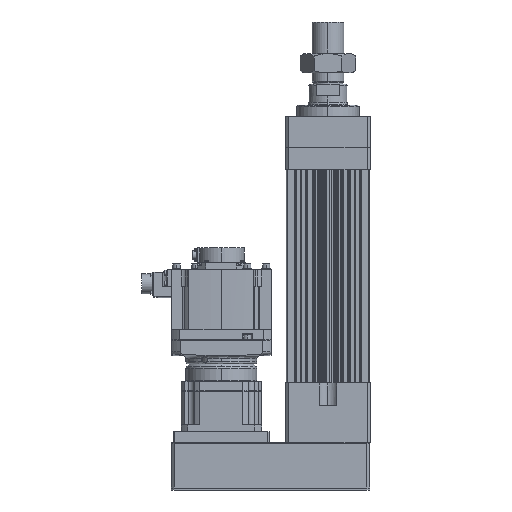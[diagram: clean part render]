
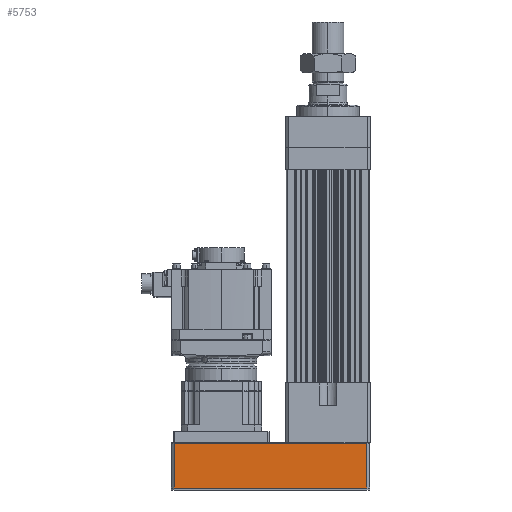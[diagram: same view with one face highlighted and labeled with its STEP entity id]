
A CAD part, left-side view. The second image highlights one B-rep face of the part: STEP entity #5753.
In plain terms, the highlighted planar face has unit normal (-1, 0, 0).
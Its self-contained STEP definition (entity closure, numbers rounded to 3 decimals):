
#1060 = CARTESIAN_POINT ( 'NONE',  ( -73.5, 271.5, -106.5 ) ) ;
#2267 = LINE ( 'NONE', #52639, #41137 ) ;
#3141 = VERTEX_POINT ( 'NONE', #20644 ) ;
#5753 = ADVANCED_FACE ( 'NONE', ( #41482 ), #39774, .F. ) ;
#5914 = EDGE_CURVE ( 'NONE', #8346, #50748, #14648, .T. ) ;
#8016 = DIRECTION ( 'NONE',  ( 0., 0., 1. ) ) ;
#8295 = EDGE_LOOP ( 'NONE', ( #27834, #16428, #14856, #49110 ) ) ;
#8346 = VERTEX_POINT ( 'NONE', #33720 ) ;
#10574 = DIRECTION ( 'NONE',  ( 0., 1., 0. ) ) ;
#11549 = CARTESIAN_POINT ( 'NONE',  ( -73.5, 271.5, -186. ) ) ;
#13460 = VECTOR ( 'NONE', #43443, 1000. ) ;
#14648 = LINE ( 'NONE', #11549, #47875 ) ;
#14856 = ORIENTED_EDGE ( 'NONE', *, *, #39870, .T. ) ;
#15452 = CARTESIAN_POINT ( 'NONE',  ( -73.5, -68.5, -106.5 ) ) ;
#16428 = ORIENTED_EDGE ( 'NONE', *, *, #30361, .T. ) ;
#19115 = CARTESIAN_POINT ( 'NONE',  ( -73.5, -68.5, -186. ) ) ;
#20644 = CARTESIAN_POINT ( 'NONE',  ( -73.5, -68.5, -185.5 ) ) ;
#27834 = ORIENTED_EDGE ( 'NONE', *, *, #5914, .F. ) ;
#29850 = LINE ( 'NONE', #35608, #51584 ) ;
#30361 = EDGE_CURVE ( 'NONE', #8346, #3141, #2267, .T. ) ;
#31293 = LINE ( 'NONE', #39138, #13460 ) ;
#32112 = DIRECTION ( 'NONE',  ( 0., -1., 0. ) ) ;
#33720 = CARTESIAN_POINT ( 'NONE',  ( -73.5, 271.5, -185.5 ) ) ;
#35608 = CARTESIAN_POINT ( 'NONE',  ( -73.5, -68.5, -106.5 ) ) ;
#39138 = CARTESIAN_POINT ( 'NONE',  ( -73.5, -68.5, -186. ) ) ;
#39239 = DIRECTION ( 'NONE',  ( 1., 0., 0. ) ) ;
#39774 = PLANE ( 'NONE',  #48521 ) ;
#39870 = EDGE_CURVE ( 'NONE', #3141, #42557, #31293, .T. ) ;
#41137 = VECTOR ( 'NONE', #32112, 1000. ) ;
#41482 = FACE_OUTER_BOUND ( 'NONE', #8295, .T. ) ;
#42557 = VERTEX_POINT ( 'NONE', #15452 ) ;
#43443 = DIRECTION ( 'NONE',  ( 0., 0., 1. ) ) ;
#44004 = DIRECTION ( 'NONE',  ( 0., 1., 0. ) ) ;
#47875 = VECTOR ( 'NONE', #8016, 1000. ) ;
#48521 = AXIS2_PLACEMENT_3D ( 'NONE', #19115, #39239, #10574 ) ;
#49110 = ORIENTED_EDGE ( 'NONE', *, *, #50416, .T. ) ;
#50416 = EDGE_CURVE ( 'NONE', #42557, #50748, #29850, .T. ) ;
#50748 = VERTEX_POINT ( 'NONE', #1060 ) ;
#51584 = VECTOR ( 'NONE', #44004, 1000. ) ;
#52639 = CARTESIAN_POINT ( 'NONE',  ( -73.5, -68.5, -185.5 ) ) ;
